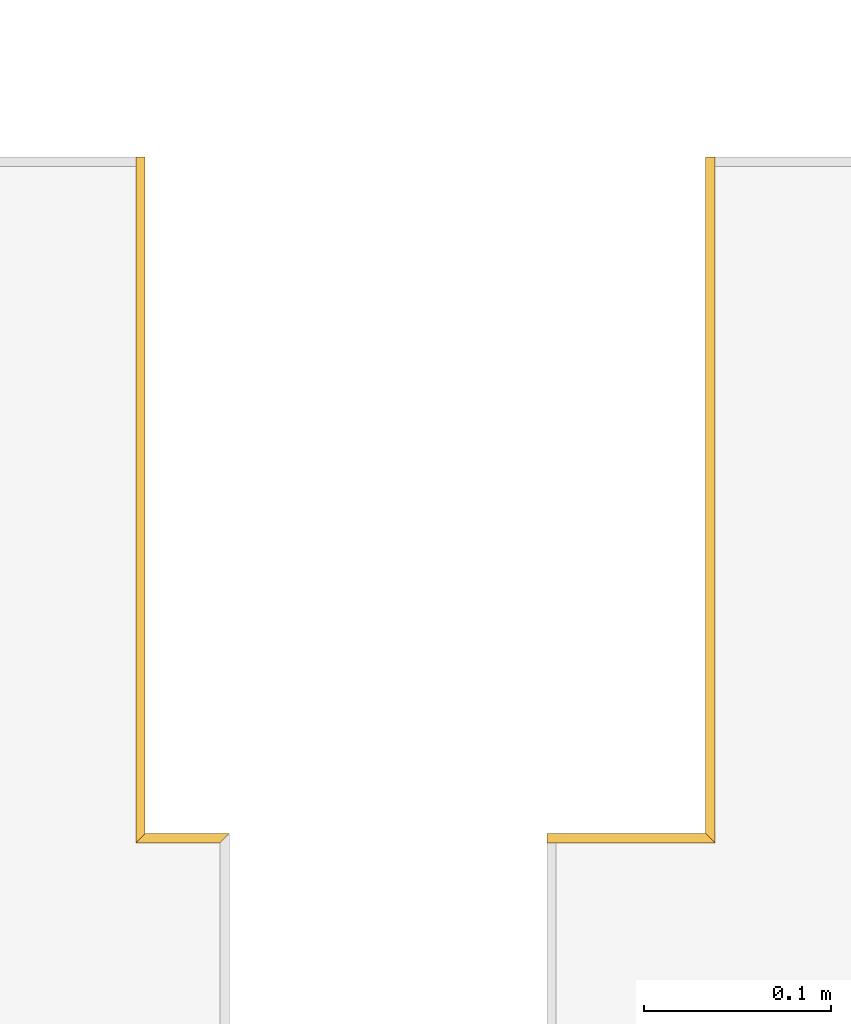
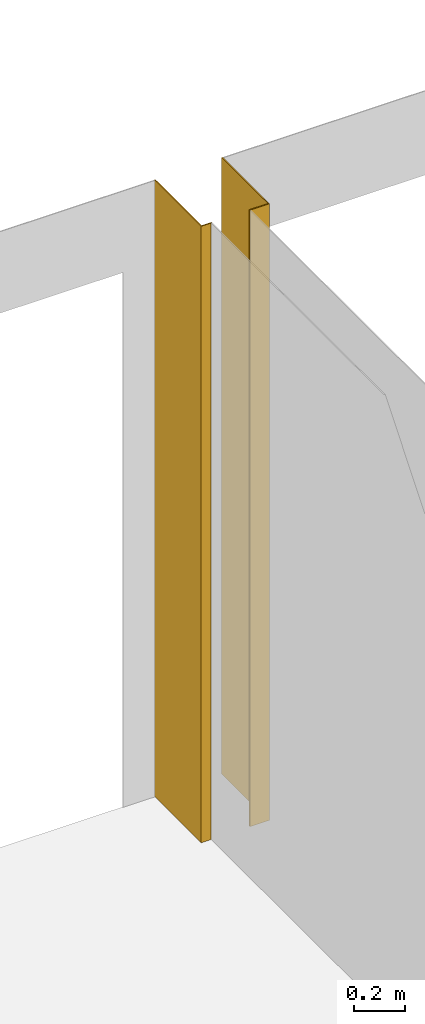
# One storey, part 24 of 33: 4 coverings.
"""IFC2X3 building model written with IfcOpenShell, lengths in millimetres."""

from ifc_helpers import new_model, entity, si_unit, converted_unit, derived_unit, money_unit, direction, frame, origin_with_axes, place, context, subcontext, project, spatial, polyline, outline, extrude, material, type_object, element, save


model = new_model("IFC2X3")

# Units and contexts
model_context = context("Model", 3, precision=0.01, world=origin_with_axes(), true_north=direction((0.0, 1.0)))
body_context = subcontext(model_context, "Body", "Model", "MODEL_VIEW")
ifc_project = project(units=[si_unit("LENGTHUNIT", "METRE", prefix="MILLI"), si_unit("AREAUNIT", "SQUARE_METRE"), si_unit("VOLUMEUNIT", "CUBIC_METRE"), converted_unit("PLANEANGLEUNIT", "DEGREE", entity("IfcPlaneAngleMeasure", 0.0174532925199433), si_unit("PLANEANGLEUNIT", "RADIAN"), dimensions=[0, 0, 0, 0, 0, 0, 0]), money_unit("EUR"), converted_unit("TIMEUNIT", "Year", entity("IfcTimeMeasure", 31556926.0), si_unit("TIMEUNIT", "SECOND"), dimensions=[0, 0, 1, 0, 0, 0, 0]), si_unit("MASSUNIT", "GRAM", prefix="KILO"), si_unit("THERMODYNAMICTEMPERATUREUNIT", "DEGREE_CELSIUS"), si_unit("LUMINOUSINTENSITYUNIT", "LUMEN"), si_unit("ENERGYUNIT", "JOULE", prefix="MEGA"), derived_unit("THERMALCONDUCTANCEUNIT", [(si_unit("POWERUNIT", "WATT"), 1), (si_unit("LENGTHUNIT", "METRE"), -1), (si_unit("THERMODYNAMICTEMPERATUREUNIT", "KELVIN"), -1)]), derived_unit("SPECIFICHEATCAPACITYUNIT", [(si_unit("ENERGYUNIT", "JOULE"), 1), (si_unit("MASSUNIT", "GRAM", prefix="KILO"), -1), (si_unit("THERMODYNAMICTEMPERATUREUNIT", "KELVIN"), -1)]), derived_unit("MASSDENSITYUNIT", [(si_unit("MASSUNIT", "GRAM", prefix="KILO"), 1), (si_unit("VOLUMEUNIT", "CUBIC_METRE"), -1)])], contexts=[model_context])

# Site, building, storey
site_placement = place(None, origin_with_axes())
site = spatial("IfcSite", under=ifc_project, at=site_placement, Name="Paldiski mnt 245/1, Tallinn, Harjumaa", CompositionType="COMPLEX")
building_placement = place(site_placement, origin_with_axes())
building = spatial("IfcBuilding", under=site, at=building_placement, Name="RKAS Hoone üldnimetus (kasutust iseloomustav) -> IFC Project Manager -> SOLIBRI", CompositionType="ELEMENT")
storey_placement = place(building_placement, origin_with_axes())
storey = spatial("IfcBuildingStorey", under=building, at=storey_placement, Name="Esimene korrus", CompositionType="ELEMENT", Elevation=0.0)

# Coverings
ifc_material = material(Name="SA- Värv SM5(valge)")
covering_type = type_object("IfcCoveringType", Name="SA- Värv SM5(valge) 5", PredefinedType="CLADDING")
covering_1_placement = place(storey_placement, frame((-23544.99992678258, -470.0001434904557, 0.0), z_axis=(0.0, 0.0, 1.0), x_axis=(-0.9999999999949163, 3.188679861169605e-06, 0.0)))
element("IfcCovering", 1, at=covering_1_placement, inside=storey, type_object=covering_type, material=ifc_material, Name="SM5", PredefinedType="CLADDING", context=body_context, shape_type="SweptSolid", body=[
    extrude(outline(polyline([(0.0, 0.0), (45.00007321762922, 0.0), (50.00005727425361, 4.999999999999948), (4.999984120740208, 4.999999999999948), (0.0, 0.0)])), origin_with_axes(), (0.0, 0.0, 1.0), 2950.0),
])
covering_2_placement = place(storey_placement, frame((-23589.99999999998, -469.9999999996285, 0.0), z_axis=(0.0, 0.0, 1.0), x_axis=(0.0, 1.0, 0.0)))
element("IfcCovering", 2, at=covering_2_placement, inside=storey, type_object=covering_type, material=ifc_material, Name="SM5", PredefinedType="CLADDING", context=body_context, shape_type="SweptSolid", body=[
    extrude(outline(polyline([(0.0, 0.0), (361.9999999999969, 0.0), (361.999999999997, 4.999999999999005), (-4.99998405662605, 4.999999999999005), (0.0, 0.0)])), origin_with_axes(), (0.0, 0.0, 1.0), 2950.0),
])
covering_3_placement = place(storey_placement, frame((-23289.99999999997, -107.9999999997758, 0.0), z_axis=(0.0, 0.0, 1.0), x_axis=(0.0, -1.0, 0.0)))
element("IfcCovering", 3, at=covering_3_placement, inside=storey, type_object=covering_type, material=ifc_material, Name="SM5", PredefinedType="CLADDING", context=body_context, shape_type="SweptSolid", body=[
    extrude(outline(polyline([(-1.374456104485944e-10, 0.0), (361.9999999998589, 0.0), (366.9999991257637, 4.999999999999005), (-1.374317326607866e-10, 4.999999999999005), (-1.374456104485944e-10, 0.0)])), origin_with_axes(), (0.0, 0.0, 1.0), 2950.0),
])
covering_4_placement = place(storey_placement, frame((-23289.99999999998, -469.9999999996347, 0.0), z_axis=(0.0, 0.0, 1.0), x_axis=(-0.9999999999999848, -1.748190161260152e-07, 0.0)))
element("IfcCovering", 4, at=covering_4_placement, inside=storey, type_object=covering_type, material=ifc_material, Name="SM5", PredefinedType="CLADDING", context=body_context, shape_type="SweptSolid", body=[
    extrude(outline(polyline([(0.0, 0.0), (84.99999999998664, 0.0), (85.0000008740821, 5.00000000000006), (-4.999999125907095, 5.00000000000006), (0.0, 0.0)])), origin_with_axes(), (0.0, 0.0, 1.0), 2950.0),
])

save(model, "model.ifc")
